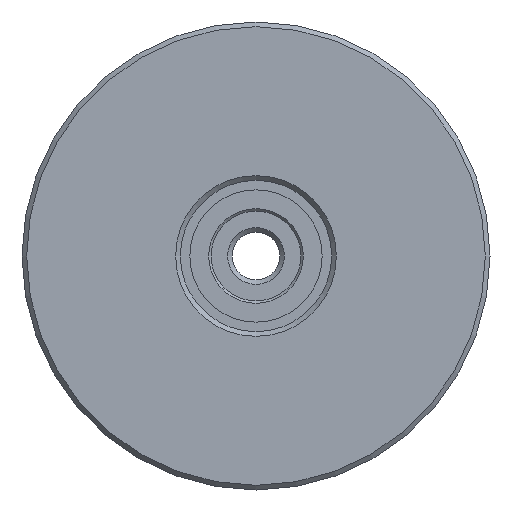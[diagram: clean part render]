
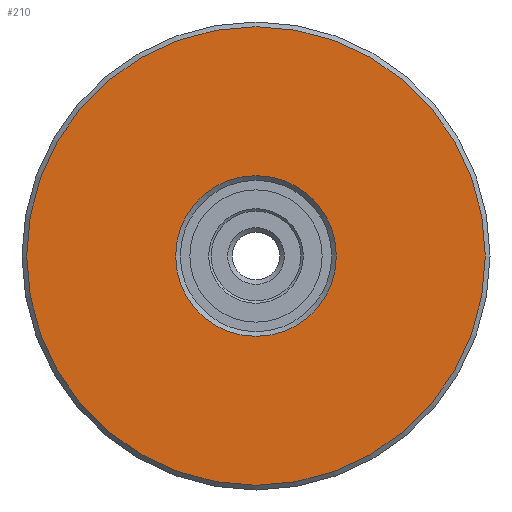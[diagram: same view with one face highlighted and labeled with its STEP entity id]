
A CAD part, left-side view. The second image highlights one B-rep face of the part: STEP entity #210.
In plain terms, the highlighted planar face has unit normal (-1, 0, 0) as drawn and (0, -1, 0) by its records, which use the part's own axes.
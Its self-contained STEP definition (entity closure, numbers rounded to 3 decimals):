
#210 = ADVANCED_FACE( '', ( #293, #294 ), #295, .T. );
#293 = FACE_OUTER_BOUND( '', #481, .T. );
#294 = FACE_BOUND( '', #482, .T. );
#295 = PLANE( '', #483 );
#481 = EDGE_LOOP( '', ( #676 ) );
#482 = EDGE_LOOP( '', ( #677 ) );
#483 = AXIS2_PLACEMENT_3D( '', #678, #679, #680 );
#676 = ORIENTED_EDGE( '', *, *, #1150, .T. );
#677 = ORIENTED_EDGE( '', *, *, #1149, .F. );
#678 = CARTESIAN_POINT( '', ( 17., 0., 0. ) );
#679 = DIRECTION( '', ( 0., -1., 0. ) );
#680 = DIRECTION( '', ( 0., 0., -1. ) );
#1149 = EDGE_CURVE( '', #1288, #1288, #1289, .T. );
#1150 = EDGE_CURVE( '', #1290, #1290, #1291, .T. );
#1288 = VERTEX_POINT( '', #1526 );
#1289 = CIRCLE( '', #1527, 17. );
#1290 = VERTEX_POINT( '', #1528 );
#1291 = CIRCLE( '', #1529, 48.5 );
#1526 = CARTESIAN_POINT( '', ( 0., 0., -17. ) );
#1527 = AXIS2_PLACEMENT_3D( '', #2008, #2009, #2010 );
#1528 = CARTESIAN_POINT( '', ( 0., 0., -48.5 ) );
#1529 = AXIS2_PLACEMENT_3D( '', #2011, #2012, #2013 );
#2008 = CARTESIAN_POINT( '', ( 0., 0., 0. ) );
#2009 = DIRECTION( '', ( 0., -1., 0. ) );
#2010 = DIRECTION( '', ( 0., 0., -1. ) );
#2011 = CARTESIAN_POINT( '', ( 0., 0., 0. ) );
#2012 = DIRECTION( '', ( 0., -1., 0. ) );
#2013 = DIRECTION( '', ( 0., 0., -1. ) );
